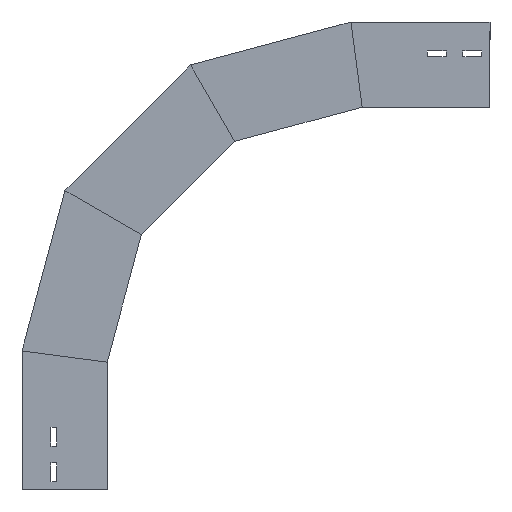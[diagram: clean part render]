
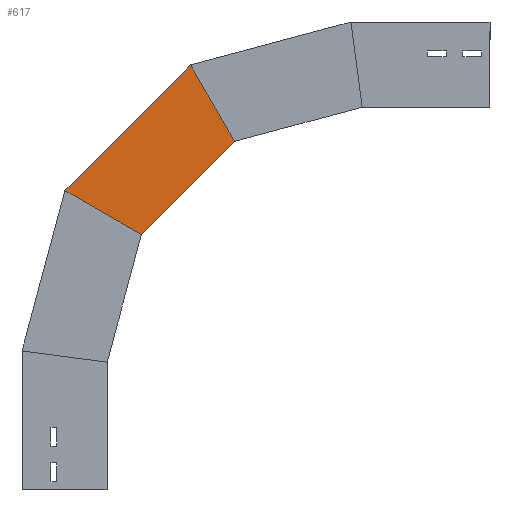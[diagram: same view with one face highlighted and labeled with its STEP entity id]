
A CAD part, left-side view. The second image highlights one B-rep face of the part: STEP entity #617.
In plain terms, the highlighted planar face has unit normal (-1, 0, 0) as drawn and (1, 0, 0) by its records, which use the part's own axes.
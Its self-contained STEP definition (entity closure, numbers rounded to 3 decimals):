
#6 = DIRECTION ( 'NONE',  ( 1., 0., 0. ) ) ;
#59 = EDGE_LOOP ( 'NONE', ( #899, #804, #1863, #1068 ) ) ;
#67 = LINE ( 'NONE', #1836, #1267 ) ;
#174 = LINE ( 'NONE', #1107, #1265 ) ;
#223 = EDGE_CURVE ( 'NONE', #421, #844, #535, .T. ) ;
#248 = VECTOR ( 'NONE', #434, 1000. ) ;
#347 = VERTEX_POINT ( 'NONE', #1468 ) ;
#421 = VERTEX_POINT ( 'NONE', #1024 ) ;
#434 = DIRECTION ( 'NONE',  ( 0., -0.707, 0.707 ) ) ;
#459 = VECTOR ( 'NONE', #1369, 1000. ) ;
#525 = EDGE_CURVE ( 'NONE', #421, #347, #1746, .T. ) ;
#535 = LINE ( 'NONE', #1127, #459 ) ;
#617 = ADVANCED_FACE ( 'NONE', ( #1615 ), #1168, .T. ) ;
#621 = VERTEX_POINT ( 'NONE', #859 ) ;
#804 = ORIENTED_EDGE ( 'NONE', *, *, #1192, .T. ) ;
#844 = VERTEX_POINT ( 'NONE', #947 ) ;
#859 = CARTESIAN_POINT ( 'NONE',  ( 0., -149.719, 409.32 ) ) ;
#899 = ORIENTED_EDGE ( 'NONE', *, *, #525, .T. ) ;
#947 = CARTESIAN_POINT ( 'NONE',  ( 0., -40.117, 299.719 ) ) ;
#1024 = CARTESIAN_POINT ( 'NONE',  ( 0., 49.541, 351.482 ) ) ;
#1068 = ORIENTED_EDGE ( 'NONE', *, *, #223, .F. ) ;
#1107 = CARTESIAN_POINT ( 'NONE',  ( 0., -173.604, 367.949 ) ) ;
#1127 = CARTESIAN_POINT ( 'NONE',  ( 0., -78.128, 277.773 ) ) ;
#1168 = PLANE ( 'NONE',  #1772 ) ;
#1192 = EDGE_CURVE ( 'NONE', #347, #621, #174, .T. ) ;
#1265 = VECTOR ( 'NONE', #1684, 1000. ) ;
#1267 = VECTOR ( 'NONE', #1272, 1000. ) ;
#1272 = DIRECTION ( 'NONE',  ( 0., -0.707, 0.707 ) ) ;
#1305 = CARTESIAN_POINT ( 'NONE',  ( 0., 51.506, 349.517 ) ) ;
#1369 = DIRECTION ( 'NONE',  ( 0., -0.866, -0.5 ) ) ;
#1419 = EDGE_CURVE ( 'NONE', #844, #621, #67, .T. ) ;
#1468 = CARTESIAN_POINT ( 'NONE',  ( 0., -97.955, 498.978 ) ) ;
#1606 = DIRECTION ( 'NONE',  ( 0., 0., -1. ) ) ;
#1615 = FACE_OUTER_BOUND ( 'NONE', #59, .T. ) ;
#1684 = DIRECTION ( 'NONE',  ( 0., -0.5, -0.866 ) ) ;
#1737 = CARTESIAN_POINT ( 'NONE',  ( 0., -19.205, 278.806 ) ) ;
#1746 = LINE ( 'NONE', #1305, #248 ) ;
#1772 = AXIS2_PLACEMENT_3D ( 'NONE', #1737, #6, #1606 ) ;
#1836 = CARTESIAN_POINT ( 'NONE',  ( 0., -19.205, 278.806 ) ) ;
#1863 = ORIENTED_EDGE ( 'NONE', *, *, #1419, .F. ) ;
